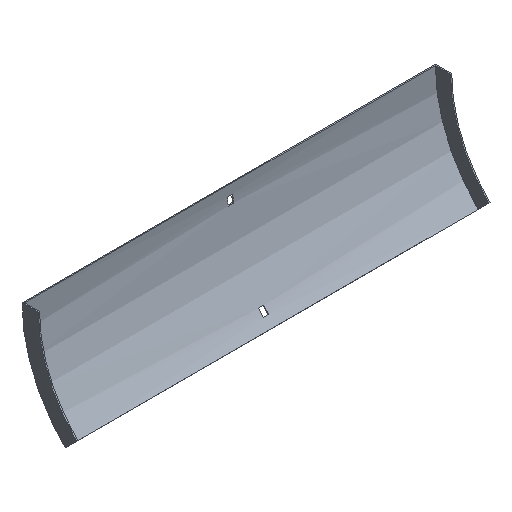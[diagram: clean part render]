
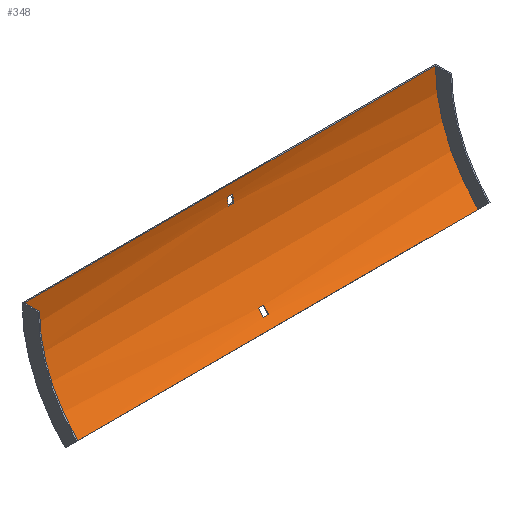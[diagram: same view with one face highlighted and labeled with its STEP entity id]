
A CAD part, isometric view. The second image highlights one B-rep face of the part: STEP entity #348.
In plain terms, the highlighted cylindrical face has radius 179 mm (diameter 358 mm), a partial arc.
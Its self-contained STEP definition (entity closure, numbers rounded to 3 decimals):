
#1 = VECTOR ( 'NONE', #114, 1000. ) ;
#3 = EDGE_CURVE ( 'NONE', #282, #217, #241, .T. ) ;
#14 = LINE ( 'NONE', #377, #422 ) ;
#17 = DIRECTION ( 'NONE',  ( -1., 0., 0. ) ) ;
#22 = DIRECTION ( 'NONE',  ( 0., 0., 1. ) ) ;
#30 = VECTOR ( 'NONE', #120, 1000. ) ;
#33 = DIRECTION ( 'NONE',  ( -1., 0., 0. ) ) ;
#35 = DIRECTION ( 'NONE',  ( 0., 0., 1. ) ) ;
#38 = CARTESIAN_POINT ( 'NONE',  ( 252., -53.928, -126.572 ) ) ;
#60 = CARTESIAN_POINT ( 'NONE',  ( 253.5, -180.5, 0. ) ) ;
#69 = VECTOR ( 'NONE', #17, 1000. ) ;
#70 = DIRECTION ( 'NONE',  ( 0., 0., 1. ) ) ;
#86 = VERTEX_POINT ( 'NONE', #300 ) ;
#90 = CARTESIAN_POINT ( 'NONE',  ( -252., -1.5, 0. ) ) ;
#106 = EDGE_CURVE ( 'NONE', #242, #587, #132, .T. ) ;
#114 = DIRECTION ( 'NONE',  ( -1., 0., 0. ) ) ;
#120 = DIRECTION ( 'NONE',  ( -1., 0., 0. ) ) ;
#123 = EDGE_CURVE ( 'NONE', #86, #242, #304, .T. ) ;
#127 = DIRECTION ( 'NONE',  ( 1., 0., 0. ) ) ;
#132 = LINE ( 'NONE', #515, #579 ) ;
#135 = CARTESIAN_POINT ( 'NONE',  ( 3.25, -39.953, -110.849 ) ) ;
#139 = ORIENTED_EDGE ( 'NONE', *, *, #431, .F. ) ;
#144 = EDGE_LOOP ( 'NONE', ( #139, #262, #565, #562 ) ) ;
#147 = CARTESIAN_POINT ( 'NONE',  ( 253.5, -1.903, -12. ) ) ;
#148 = ORIENTED_EDGE ( 'NONE', *, *, #407, .F. ) ;
#153 = FACE_OUTER_BOUND ( 'NONE', #484, .T. ) ;
#156 = EDGE_CURVE ( 'NONE', #578, #217, #503, .T. ) ;
#157 = VERTEX_POINT ( 'NONE', #267 ) ;
#158 = AXIS2_PLACEMENT_3D ( 'NONE', #207, #33, #70 ) ;
#169 = LINE ( 'NONE', #202, #30 ) ;
#172 = AXIS2_PLACEMENT_3D ( 'NONE', #60, #240, #468 ) ;
#173 = ORIENTED_EDGE ( 'NONE', *, *, #488, .T. ) ;
#182 = DIRECTION ( 'NONE',  ( 0., 0., -1. ) ) ;
#202 = CARTESIAN_POINT ( 'NONE',  ( 252., -53.928, -126.572 ) ) ;
#207 = CARTESIAN_POINT ( 'NONE',  ( -3.25, -180.5, 0. ) ) ;
#212 = LINE ( 'NONE', #292, #1 ) ;
#216 = CARTESIAN_POINT ( 'NONE',  ( 252., -1.5, 0. ) ) ;
#217 = VERTEX_POINT ( 'NONE', #90 ) ;
#231 = AXIS2_PLACEMENT_3D ( 'NONE', #273, #127, #182 ) ;
#240 = DIRECTION ( 'NONE',  ( -1., 0., 0. ) ) ;
#241 = CIRCLE ( 'NONE', #314, 179. ) ;
#242 = VERTEX_POINT ( 'NONE', #370 ) ;
#251 = EDGE_CURVE ( 'NONE', #403, #444, #518, .T. ) ;
#262 = ORIENTED_EDGE ( 'NONE', *, *, #251, .F. ) ;
#263 = CARTESIAN_POINT ( 'NONE',  ( 252., -1.5, 0. ) ) ;
#267 = CARTESIAN_POINT ( 'NONE',  ( 3.25, -2.736, -21. ) ) ;
#271 = DIRECTION ( 'NONE',  ( 0., 0., -1. ) ) ;
#273 = CARTESIAN_POINT ( 'NONE',  ( 3.25, -180.5, 0. ) ) ;
#278 = FACE_BOUND ( 'NONE', #144, .T. ) ;
#280 = AXIS2_PLACEMENT_3D ( 'NONE', #334, #559, #35 ) ;
#282 = VERTEX_POINT ( 'NONE', #525 ) ;
#285 = FACE_BOUND ( 'NONE', #573, .T. ) ;
#292 = CARTESIAN_POINT ( 'NONE',  ( 253.5, -45.727, -117.802 ) ) ;
#299 = CARTESIAN_POINT ( 'NONE',  ( -3.25, -1.903, -12. ) ) ;
#300 = CARTESIAN_POINT ( 'NONE',  ( -3.25, -45.727, -117.802 ) ) ;
#301 = CARTESIAN_POINT ( 'NONE',  ( 3.25, -180.5, 0. ) ) ;
#303 = DIRECTION ( 'NONE',  ( -1., 0., 0. ) ) ;
#304 = CIRCLE ( 'NONE', #404, 179. ) ;
#306 = ORIENTED_EDGE ( 'NONE', *, *, #391, .T. ) ;
#310 = DIRECTION ( 'NONE',  ( 0., 0., 1. ) ) ;
#314 = AXIS2_PLACEMENT_3D ( 'NONE', #536, #434, #22 ) ;
#327 = ORIENTED_EDGE ( 'NONE', *, *, #3, .F. ) ;
#329 = CARTESIAN_POINT ( 'NONE',  ( 3.25, -45.727, -117.802 ) ) ;
#334 = CARTESIAN_POINT ( 'NONE',  ( 252., -180.5, 0. ) ) ;
#345 = VERTEX_POINT ( 'NONE', #329 ) ;
#348 = ADVANCED_FACE ( 'NONE', ( #278, #153, #285 ), #477, .F. ) ;
#353 = ORIENTED_EDGE ( 'NONE', *, *, #156, .T. ) ;
#355 = EDGE_CURVE ( 'NONE', #395, #157, #14, .T. ) ;
#361 = CARTESIAN_POINT ( 'NONE',  ( -3.25, -180.5, 0. ) ) ;
#368 = DIRECTION ( 'NONE',  ( 1., 0., 0. ) ) ;
#370 = CARTESIAN_POINT ( 'NONE',  ( -3.25, -39.953, -110.849 ) ) ;
#371 = ORIENTED_EDGE ( 'NONE', *, *, #106, .T. ) ;
#377 = CARTESIAN_POINT ( 'NONE',  ( 253.5, -2.736, -21. ) ) ;
#391 = EDGE_CURVE ( 'NONE', #345, #86, #212, .T. ) ;
#395 = VERTEX_POINT ( 'NONE', #532 ) ;
#403 = VERTEX_POINT ( 'NONE', #432 ) ;
#404 = AXIS2_PLACEMENT_3D ( 'NONE', #361, #555, #271 ) ;
#407 = EDGE_CURVE ( 'NONE', #582, #282, #169, .T. ) ;
#422 = VECTOR ( 'NONE', #442, 1000. ) ;
#423 = ORIENTED_EDGE ( 'NONE', *, *, #123, .T. ) ;
#431 = EDGE_CURVE ( 'NONE', #444, #395, #445, .T. ) ;
#432 = CARTESIAN_POINT ( 'NONE',  ( 3.25, -1.903, -12. ) ) ;
#434 = DIRECTION ( 'NONE',  ( 1., 0., 0. ) ) ;
#442 = DIRECTION ( 'NONE',  ( 1., 0., 0. ) ) ;
#444 = VERTEX_POINT ( 'NONE', #299 ) ;
#445 = CIRCLE ( 'NONE', #158, 179. ) ;
#468 = DIRECTION ( 'NONE',  ( 0., 0., 1. ) ) ;
#477 = CYLINDRICAL_SURFACE ( 'NONE', #172, 179. ) ;
#484 = EDGE_LOOP ( 'NONE', ( #327, #148, #173, #353 ) ) ;
#487 = VECTOR ( 'NONE', #303, 1000. ) ;
#488 = EDGE_CURVE ( 'NONE', #582, #578, #520, .T. ) ;
#497 = EDGE_CURVE ( 'NONE', #157, #403, #557, .T. ) ;
#498 = DIRECTION ( 'NONE',  ( -1., 0., 0. ) ) ;
#503 = LINE ( 'NONE', #216, #487 ) ;
#515 = CARTESIAN_POINT ( 'NONE',  ( 253.5, -39.953, -110.849 ) ) ;
#518 = LINE ( 'NONE', #147, #69 ) ;
#520 = CIRCLE ( 'NONE', #280, 179. ) ;
#525 = CARTESIAN_POINT ( 'NONE',  ( -252., -53.928, -126.572 ) ) ;
#532 = CARTESIAN_POINT ( 'NONE',  ( -3.25, -2.736, -21. ) ) ;
#536 = CARTESIAN_POINT ( 'NONE',  ( -252., -180.5, 0. ) ) ;
#544 = EDGE_CURVE ( 'NONE', #587, #345, #577, .T. ) ;
#549 = ORIENTED_EDGE ( 'NONE', *, *, #544, .T. ) ;
#555 = DIRECTION ( 'NONE',  ( 1., 0., 0. ) ) ;
#557 = CIRCLE ( 'NONE', #231, 179. ) ;
#559 = DIRECTION ( 'NONE',  ( 1., 0., 0. ) ) ;
#562 = ORIENTED_EDGE ( 'NONE', *, *, #355, .F. ) ;
#565 = ORIENTED_EDGE ( 'NONE', *, *, #497, .F. ) ;
#573 = EDGE_LOOP ( 'NONE', ( #306, #423, #371, #549 ) ) ;
#577 = CIRCLE ( 'NONE', #588, 179. ) ;
#578 = VERTEX_POINT ( 'NONE', #263 ) ;
#579 = VECTOR ( 'NONE', #368, 1000. ) ;
#582 = VERTEX_POINT ( 'NONE', #38 ) ;
#587 = VERTEX_POINT ( 'NONE', #135 ) ;
#588 = AXIS2_PLACEMENT_3D ( 'NONE', #301, #498, #310 ) ;
